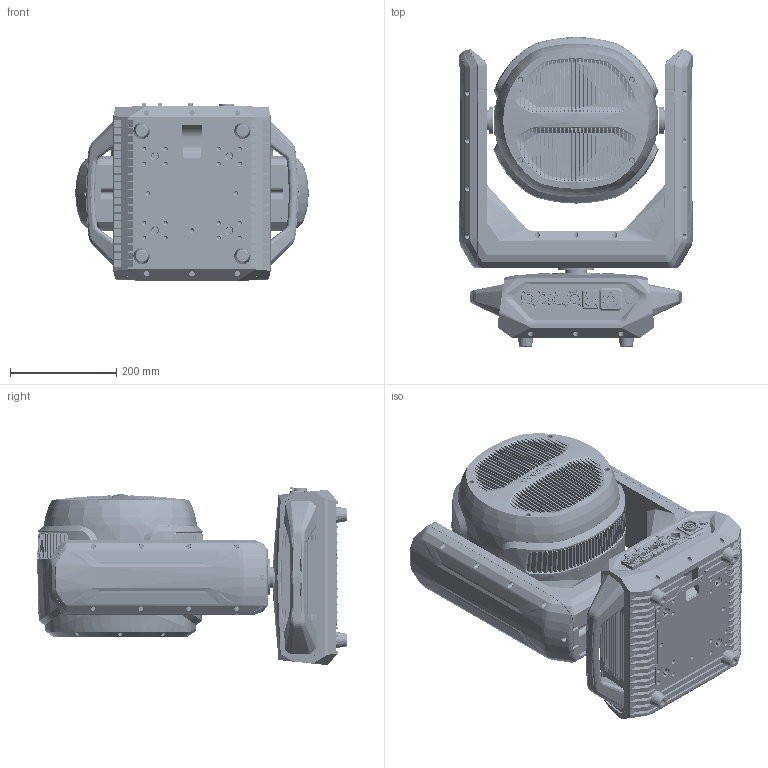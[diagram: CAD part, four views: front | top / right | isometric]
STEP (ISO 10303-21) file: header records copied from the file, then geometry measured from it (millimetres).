
FILE_DESCRIPTION (( 'STEP AP214' ), '1' );
FILE_NAME ('018226-1-Light Fixture.STEP', '2024-05-27T14:03:52', ( '' ), ( '' ), 'SwSTEP 2.0', 'SolidWorks 2021', '' );
FILE_SCHEMA (( 'AUTOMOTIVE_DESIGN' ));
Length unit declared in the file: millimetre
Products named in the file (1): 018226-1-Light Fixture
Bounding box: 440 x 584.01 x 335.38 mm (x, y, z)
Surface area: 2988700.3 mm2 (no closed solid volume)
Topology: 0 solids, 75 shells, 11719 faces, 32294 edges, 21082 vertices
Faces by surface type: plane 4684, cylinder 3420, bspline 2948, cone 642, torus 25
Entity records: 718774 total; most frequent: CARTESIAN_POINT 321847, ORIENTED_EDGE 64274, DIRECTION 42021, EDGE_CURVE 32145, VERTEX_POINT 21082, VECTOR 14307, LINE 14307, AXIS2_PLACEMENT_3D 13857
